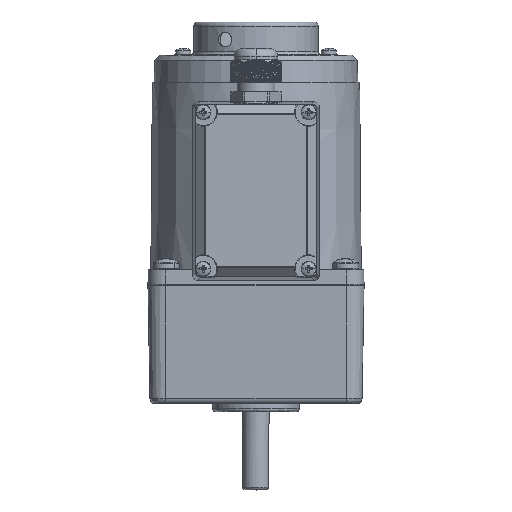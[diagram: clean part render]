
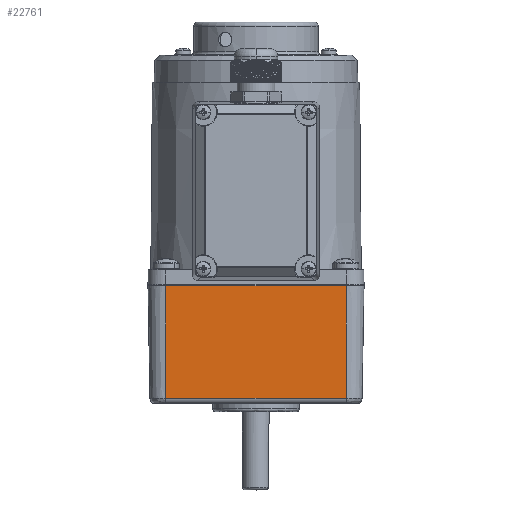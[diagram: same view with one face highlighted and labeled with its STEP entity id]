
A CAD part, top view. The second image highlights one B-rep face of the part: STEP entity #22761.
In plain terms, the highlighted planar face has unit normal (0, -0.018, 1) as drawn and (0, -1, 0.017) by its records, which use the part's own axes.
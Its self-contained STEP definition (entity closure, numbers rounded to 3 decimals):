
#1360 = LINE ( 'NONE', #13704, #25582 ) ;
#2234 = VECTOR ( 'NONE', #6544, 1000. ) ;
#4328 = CARTESIAN_POINT ( 'NONE',  ( 0., -39.638, 20.767 ) ) ;
#4522 = VECTOR ( 'NONE', #18569, 1000. ) ;
#6306 = CARTESIAN_POINT ( 'NONE',  ( 33.5, -8750.077, -499000. ) ) ;
#6497 = DIRECTION ( 'NONE',  ( 1., 0., 0. ) ) ;
#6544 = DIRECTION ( 'NONE',  ( 1., 0., 0. ) ) ;
#11080 = CARTESIAN_POINT ( 'NONE',  ( 33.5, -39.275, 41.535 ) ) ;
#12404 = EDGE_CURVE ( 'NONE', #14975, #26426, #33925, .T. ) ;
#12457 = EDGE_CURVE ( 'NONE', #25471, #14975, #21797, .T. ) ;
#13581 = ORIENTED_EDGE ( 'NONE', *, *, #12404, .F. ) ;
#13704 = CARTESIAN_POINT ( 'NONE',  ( -33.5, -39.638, 20.767 ) ) ;
#14975 = VERTEX_POINT ( 'NONE', #11080 ) ;
#15991 = EDGE_CURVE ( 'NONE', #31803, #25471, #1360, .T. ) ;
#16411 = CARTESIAN_POINT ( 'NONE',  ( 33.5, -40., 0. ) ) ;
#16614 = DIRECTION ( 'NONE',  ( 0., 1., -0.017 ) ) ;
#18569 = DIRECTION ( 'NONE',  ( 0., -0.017, -1. ) ) ;
#19640 = FACE_OUTER_BOUND ( 'NONE', #32440, .T. ) ;
#21797 = LINE ( 'NONE', #34119, #37361 ) ;
#21839 = LINE ( 'NONE', #34157, #2234 ) ;
#22761 = ADVANCED_FACE ( 'NONE', ( #19640 ), #31973, .F. ) ;
#25471 = VERTEX_POINT ( 'NONE', #31305 ) ;
#25582 = VECTOR ( 'NONE', #25982, 1000. ) ;
#25982 = DIRECTION ( 'NONE',  ( 0., 0.017, 1. ) ) ;
#26426 = VERTEX_POINT ( 'NONE', #16411 ) ;
#27816 = ORIENTED_EDGE ( 'NONE', *, *, #12457, .F. ) ;
#27848 = AXIS2_PLACEMENT_3D ( 'NONE', #4328, #16614, #28925 ) ;
#28925 = DIRECTION ( 'NONE',  ( -1., 0., 0. ) ) ;
#28962 = EDGE_CURVE ( 'NONE', #31803, #26426, #21839, .T. ) ;
#30333 = CARTESIAN_POINT ( 'NONE',  ( -33.5, -40., 0. ) ) ;
#31305 = CARTESIAN_POINT ( 'NONE',  ( -33.5, -39.275, 41.535 ) ) ;
#31351 = ORIENTED_EDGE ( 'NONE', *, *, #15991, .F. ) ;
#31803 = VERTEX_POINT ( 'NONE', #30333 ) ;
#31973 = PLANE ( 'NONE',  #27848 ) ;
#32440 = EDGE_LOOP ( 'NONE', ( #35655, #13581, #27816, #31351 ) ) ;
#33925 = LINE ( 'NONE', #6306, #4522 ) ;
#34119 = CARTESIAN_POINT ( 'NONE',  ( 0., -39.275, 41.535 ) ) ;
#34157 = CARTESIAN_POINT ( 'NONE',  ( 0., -40., 0. ) ) ;
#35655 = ORIENTED_EDGE ( 'NONE', *, *, #28962, .T. ) ;
#37361 = VECTOR ( 'NONE', #6497, 1000. ) ;
